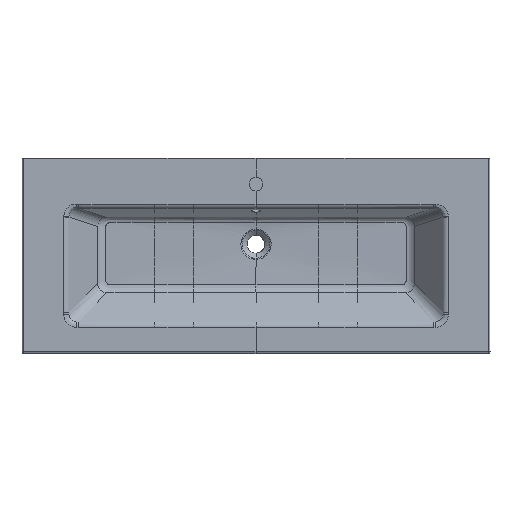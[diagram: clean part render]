
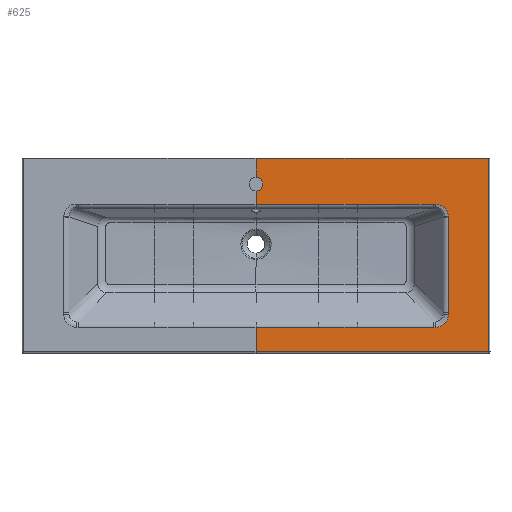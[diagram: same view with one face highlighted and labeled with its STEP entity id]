
A CAD part, top view. The second image highlights one B-rep face of the part: STEP entity #625.
In plain terms, the highlighted planar face has unit normal (0, 0, 1).
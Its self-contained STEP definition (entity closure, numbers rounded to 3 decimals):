
#123=PLANE('',#3191);
#208=CIRCLE('',#3157,17.5);
#311=LINE('',#10320,#429);
#312=LINE('',#10324,#430);
#313=LINE('',#10330,#431);
#314=LINE('',#10336,#432);
#315=LINE('',#10443,#433);
#316=LINE('',#10460,#434);
#317=LINE('',#10466,#435);
#318=LINE('',#10569,#436);
#319=LINE('',#10584,#437);
#320=LINE('',#10588,#438);
#321=LINE('',#10590,#439);
#322=LINE('',#10592,#440);
#323=LINE('',#10593,#441);
#327=LINE('',#10600,#445);
#328=LINE('',#10604,#446);
#334=LINE('',#11015,#452);
#335=LINE('',#11017,#453);
#336=LINE('',#11019,#454);
#429=VECTOR('',#3507,1.);
#430=VECTOR('',#3512,1.);
#431=VECTOR('',#3515,1.);
#432=VECTOR('',#3518,1.);
#433=VECTOR('',#3521,1.);
#434=VECTOR('',#3522,1.);
#435=VECTOR('',#3525,1.);
#436=VECTOR('',#3526,1.);
#437=VECTOR('',#3529,1.);
#438=VECTOR('',#3534,1.);
#439=VECTOR('',#3537,1.);
#440=VECTOR('',#3540,1.);
#441=VECTOR('',#3541,1.);
#445=VECTOR('',#3545,1.);
#446=VECTOR('',#3550,1.);
#452=VECTOR('',#3592,1.);
#453=VECTOR('',#3593,1.);
#454=VECTOR('',#3594,1.);
#625=ADVANCED_FACE('',(#863),#123,.F.);
#863=FACE_OUTER_BOUND('',#1047,.T.);
#1047=EDGE_LOOP('',(#1967,#1968,#1969,#1970,#1971,#1972,#1973,#1974,#1975,
#1976,#1977,#1978,#1979,#1980,#1981,#1982,#1983,#1984,#1985,#1986,#1987,
#1988));
#1967=ORIENTED_EDGE('',*,*,#2745,.T.);
#1968=ORIENTED_EDGE('',*,*,#2718,.T.);
#1969=ORIENTED_EDGE('',*,*,#2744,.T.);
#1970=ORIENTED_EDGE('',*,*,#2720,.T.);
#1971=ORIENTED_EDGE('',*,*,#2722,.T.);
#1972=ORIENTED_EDGE('',*,*,#2724,.T.);
#1973=ORIENTED_EDGE('',*,*,#2726,.T.);
#1974=ORIENTED_EDGE('',*,*,#2728,.T.);
#1975=ORIENTED_EDGE('',*,*,#2730,.T.);
#1976=ORIENTED_EDGE('',*,*,#2732,.T.);
#1977=ORIENTED_EDGE('',*,*,#2734,.T.);
#1978=ORIENTED_EDGE('',*,*,#2736,.T.);
#1979=ORIENTED_EDGE('',*,*,#2738,.T.);
#1980=ORIENTED_EDGE('',*,*,#2740,.T.);
#1981=ORIENTED_EDGE('',*,*,#2742,.T.);
#1982=ORIENTED_EDGE('',*,*,#2743,.T.);
#1983=ORIENTED_EDGE('',*,*,#2749,.T.);
#1984=ORIENTED_EDGE('',*,*,#2751,.T.);
#1985=ORIENTED_EDGE('',*,*,#2792,.F.);
#1986=ORIENTED_EDGE('',*,*,#2793,.F.);
#1987=ORIENTED_EDGE('',*,*,#2794,.F.);
#1988=ORIENTED_EDGE('',*,*,#2795,.F.);
#2244=VERTEX_POINT('',#9267);
#2257=VERTEX_POINT('',#9577);
#2258=VERTEX_POINT('',#9581);
#2303=VERTEX_POINT('',#10314);
#2304=VERTEX_POINT('',#10315);
#2305=VERTEX_POINT('',#10319);
#2306=VERTEX_POINT('',#10323);
#2307=VERTEX_POINT('',#10329);
#2308=VERTEX_POINT('',#10335);
#2309=VERTEX_POINT('',#10352);
#2310=VERTEX_POINT('',#10442);
#2311=VERTEX_POINT('',#10459);
#2312=VERTEX_POINT('',#10465);
#2313=VERTEX_POINT('',#10482);
#2314=VERTEX_POINT('',#10568);
#2315=VERTEX_POINT('',#10583);
#2316=VERTEX_POINT('',#10587);
#2317=VERTEX_POINT('',#10594);
#2320=VERTEX_POINT('',#10603);
#2339=VERTEX_POINT('',#11014);
#2340=VERTEX_POINT('',#11016);
#2341=VERTEX_POINT('',#11018);
#2718=EDGE_CURVE('',#2304,#2303,#208,.T.);
#2720=EDGE_CURVE('',#2257,#2305,#311,.T.);
#2722=EDGE_CURVE('',#2305,#2306,#312,.T.);
#2724=EDGE_CURVE('',#2306,#2307,#313,.T.);
#2726=EDGE_CURVE('',#2307,#2308,#314,.T.);
#2728=EDGE_CURVE('',#2308,#2309,#3015,.T.);
#2730=EDGE_CURVE('',#2309,#2310,#315,.T.);
#2732=EDGE_CURVE('',#2310,#2311,#316,.T.);
#2734=EDGE_CURVE('',#2311,#2312,#317,.T.);
#2736=EDGE_CURVE('',#2312,#2313,#3016,.T.);
#2738=EDGE_CURVE('',#2313,#2314,#318,.T.);
#2740=EDGE_CURVE('',#2314,#2315,#319,.T.);
#2742=EDGE_CURVE('',#2315,#2316,#320,.T.);
#2743=EDGE_CURVE('',#2316,#2244,#321,.T.);
#2744=EDGE_CURVE('',#2303,#2257,#322,.T.);
#2745=EDGE_CURVE('',#2317,#2304,#323,.T.);
#2749=EDGE_CURVE('',#2244,#2258,#327,.T.);
#2751=EDGE_CURVE('',#2258,#2320,#328,.T.);
#2792=EDGE_CURVE('',#2339,#2320,#3044,.T.);
#2793=EDGE_CURVE('',#2340,#2339,#334,.T.);
#2794=EDGE_CURVE('',#2341,#2340,#335,.T.);
#2795=EDGE_CURVE('',#2317,#2341,#336,.T.);
#3015=B_SPLINE_CURVE_WITH_KNOTS('',3,(#10353,#10354,#10355,#10356,#10357,
#10358,#10359,#10360,#10361,#10362),.UNSPECIFIED.,.F.,.F.,(4,2,2,2,4),(0.,
0.25,0.5,0.75,1.),.UNSPECIFIED.);
#3016=B_SPLINE_CURVE_WITH_KNOTS('',3,(#10483,#10484,#10485,#10486,#10487,
#10488,#10489,#10490,#10491,#10492),.UNSPECIFIED.,.F.,.F.,(4,2,2,2,4),(0.,
0.25,0.5,0.75,1.),.UNSPECIFIED.);
#3044=B_SPLINE_CURVE_WITH_KNOTS('',3,(#11004,#11005,#11006,#11007,#11008,
#11009,#11010,#11011,#11012,#11013),.UNSPECIFIED.,.F.,.F.,(4,2,2,2,4),(0.,
0.016,0.081,0.338,1.),
 .UNSPECIFIED.);
#3157=AXIS2_PLACEMENT_3D('',#10316,#3501,#3502);
#3191=AXIS2_PLACEMENT_3D('',#11020,#3595,#3596);
#3501=DIRECTION('',(0.,0.,-1.));
#3502=DIRECTION('',(0.,1.,0.));
#3507=DIRECTION('',(1.,0.,0.));
#3512=DIRECTION('',(1.,0.,0.));
#3515=DIRECTION('',(1.,0.,0.));
#3518=DIRECTION('',(1.,0.,0.));
#3521=DIRECTION('',(0.,-1.,0.));
#3522=DIRECTION('',(0.,-1.,0.));
#3525=DIRECTION('',(0.,-1.,0.));
#3526=DIRECTION('',(-1.,0.,0.));
#3529=DIRECTION('',(-1.,0.,0.));
#3534=DIRECTION('',(-1.,0.,0.));
#3537=DIRECTION('',(-1.,0.,0.));
#3540=DIRECTION('',(0.,-1.,0.));
#3541=DIRECTION('',(0.,-1.,0.));
#3545=DIRECTION('',(0.,-1.,0.));
#3550=DIRECTION('',(1.,0.,0.));
#3592=DIRECTION('',(1.,0.,0.));
#3593=DIRECTION('',(1.,0.,0.));
#3594=DIRECTION('',(1.,0.,0.));
#3595=DIRECTION('',(0.,0.,-1.));
#3596=DIRECTION('',(0.,-1.,0.));
#9267=CARTESIAN_POINT('',(0.,-433.,0.));
#9577=CARTESIAN_POINT('',(0.,-117.,0.));
#9581=CARTESIAN_POINT('',(0.,-496.422,0.));
#10314=CARTESIAN_POINT('',(0.,-83.5,0.));
#10315=CARTESIAN_POINT('',(0.,-48.5,0.));
#10316=CARTESIAN_POINT('',(0.,-66.,0.));
#10319=CARTESIAN_POINT('',(160.,-117.,0.));
#10320=CARTESIAN_POINT('',(80.,-117.,0.));
#10323=CARTESIAN_POINT('',(260.,-117.,0.));
#10324=CARTESIAN_POINT('',(210.,-117.,0.));
#10329=CARTESIAN_POINT('',(454.522,-117.,0.));
#10330=CARTESIAN_POINT('',(357.261,-117.,0.));
#10335=CARTESIAN_POINT('',(461.,-117.,0.));
#10336=CARTESIAN_POINT('',(457.761,-117.,0.));
#10352=CARTESIAN_POINT('',(493.,-149.,0.));
#10353=CARTESIAN_POINT('',(461.,-117.,0.));
#10354=CARTESIAN_POINT('',(465.244,-117.,0.));
#10355=CARTESIAN_POINT('',(469.326,-117.812,0.));
#10356=CARTESIAN_POINT('',(477.165,-121.06,0.));
#10357=CARTESIAN_POINT('',(480.628,-123.373,0.));
#10358=CARTESIAN_POINT('',(486.627,-129.372,0.));
#10359=CARTESIAN_POINT('',(488.941,-132.835,0.));
#10360=CARTESIAN_POINT('',(492.187,-140.673,0.));
#10361=CARTESIAN_POINT('',(493.,-144.757,0.));
#10362=CARTESIAN_POINT('',(493.,-149.,0.));
#10442=CARTESIAN_POINT('',(493.,-150.635,0.));
#10443=CARTESIAN_POINT('',(493.,-149.818,0.));
#10459=CARTESIAN_POINT('',(493.,-395.745,0.));
#10460=CARTESIAN_POINT('',(493.,-273.19,0.));
#10465=CARTESIAN_POINT('',(493.,-401.,0.));
#10466=CARTESIAN_POINT('',(493.,-398.372,0.));
#10482=CARTESIAN_POINT('',(461.,-433.,0.));
#10483=CARTESIAN_POINT('',(493.,-401.,0.));
#10484=CARTESIAN_POINT('',(493.,-405.244,0.));
#10485=CARTESIAN_POINT('',(492.188,-409.326,0.));
#10486=CARTESIAN_POINT('',(488.94,-417.165,0.));
#10487=CARTESIAN_POINT('',(486.627,-420.628,0.));
#10488=CARTESIAN_POINT('',(480.628,-426.627,0.));
#10489=CARTESIAN_POINT('',(477.165,-428.941,0.));
#10490=CARTESIAN_POINT('',(469.327,-432.187,0.));
#10491=CARTESIAN_POINT('',(465.243,-433.,0.));
#10492=CARTESIAN_POINT('',(461.,-433.,0.));
#10568=CARTESIAN_POINT('',(455.909,-433.,0.));
#10569=CARTESIAN_POINT('',(458.455,-433.,0.));
#10583=CARTESIAN_POINT('',(260.,-433.,0.));
#10584=CARTESIAN_POINT('',(357.955,-433.,0.));
#10587=CARTESIAN_POINT('',(160.,-433.,0.));
#10588=CARTESIAN_POINT('',(210.,-433.,0.));
#10590=CARTESIAN_POINT('',(80.,-433.,0.));
#10592=CARTESIAN_POINT('',(0.,0.,0.));
#10593=CARTESIAN_POINT('',(0.,0.,0.));
#10594=CARTESIAN_POINT('',(0.,0.,0.));
#10600=CARTESIAN_POINT('',(0.,0.,0.));
#10603=CARTESIAN_POINT('',(596.422,-496.422,0.));
#10604=CARTESIAN_POINT('',(298.211,-496.422,0.));
#11004=CARTESIAN_POINT('',(596.422,0.,0.));
#11005=CARTESIAN_POINT('',(596.422,-2.667,0.));
#11006=CARTESIAN_POINT('',(596.422,-5.333,0.));
#11007=CARTESIAN_POINT('',(596.422,-18.667,0.));
#11008=CARTESIAN_POINT('',(596.422,-29.333,0.));
#11009=CARTESIAN_POINT('',(596.422,-82.667,0.));
#11010=CARTESIAN_POINT('',(596.422,-125.333,0.));
#11011=CARTESIAN_POINT('',(596.422,-277.474,0.));
#11012=CARTESIAN_POINT('',(596.422,-386.948,0.));
#11013=CARTESIAN_POINT('',(596.422,-496.422,0.));
#11014=CARTESIAN_POINT('',(596.422,0.,0.));
#11015=CARTESIAN_POINT('',(0.,0.,0.));
#11016=CARTESIAN_POINT('',(260.,0.,0.));
#11017=CARTESIAN_POINT('',(210.,0.,0.));
#11018=CARTESIAN_POINT('',(160.,0.,0.));
#11019=CARTESIAN_POINT('',(80.,0.,0.));
#11020=CARTESIAN_POINT('',(0.,0.,0.));
